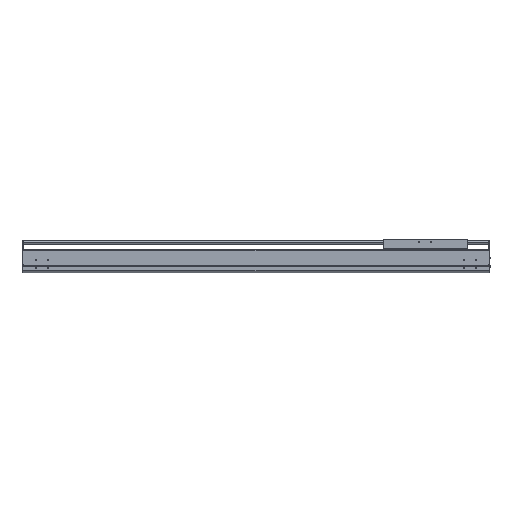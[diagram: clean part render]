
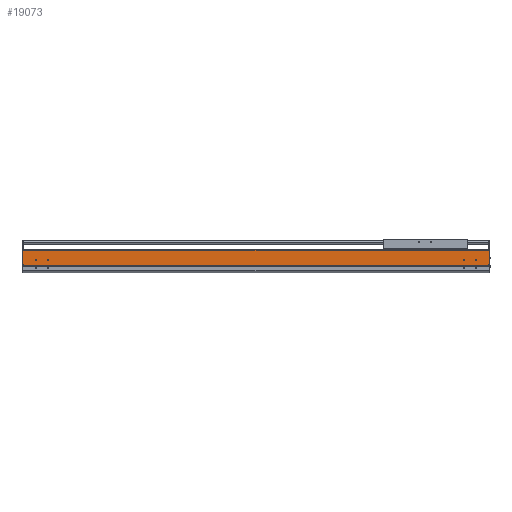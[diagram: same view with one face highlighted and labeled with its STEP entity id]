
A CAD part, top view. The second image highlights one B-rep face of the part: STEP entity #19073.
In plain terms, the highlighted planar face has unit normal (0, 0, 1).
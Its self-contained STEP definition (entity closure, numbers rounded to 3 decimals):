
#1618=DIRECTION('',(0.,-1.,0.));
#1619=VECTOR('',#1618,2.55);
#1620=CARTESIAN_POINT('',(0.,34.65,107.));
#1621=LINE('',#1620,#1619);
#2101=DIRECTION('',(1.,0.,0.));
#2102=VECTOR('',#2101,2.);
#2103=CARTESIAN_POINT('',(-1941.,34.65,107.));
#2104=LINE('',#2103,#2102);
#2105=CARTESIAN_POINT('',(-54.5,54.,107.));
#2106=DIRECTION('',(0.,0.,-1.));
#2107=DIRECTION('',(1.,0.,0.));
#2108=AXIS2_PLACEMENT_3D('',#2105,#2106,#2107);
#2110=CARTESIAN_POINT('',(-54.5,54.,107.));
#2111=DIRECTION('',(0.,0.,-1.));
#2112=DIRECTION('',(-1.,0.,0.));
#2113=AXIS2_PLACEMENT_3D('',#2110,#2111,#2112);
#2115=CARTESIAN_POINT('',(-104.5,54.,107.));
#2116=DIRECTION('',(0.,0.,-1.));
#2117=DIRECTION('',(1.,0.,0.));
#2118=AXIS2_PLACEMENT_3D('',#2115,#2116,#2117);
#2120=CARTESIAN_POINT('',(-104.5,54.,107.));
#2121=DIRECTION('',(0.,0.,-1.));
#2122=DIRECTION('',(-1.,0.,0.));
#2123=AXIS2_PLACEMENT_3D('',#2120,#2121,#2122);
#2125=CARTESIAN_POINT('',(-1884.5,54.,107.));
#2126=DIRECTION('',(0.,0.,-1.));
#2127=DIRECTION('',(1.,0.,0.));
#2128=AXIS2_PLACEMENT_3D('',#2125,#2126,#2127);
#2130=CARTESIAN_POINT('',(-1884.5,54.,107.));
#2131=DIRECTION('',(0.,0.,-1.));
#2132=DIRECTION('',(-1.,0.,0.));
#2133=AXIS2_PLACEMENT_3D('',#2130,#2131,#2132);
#2135=CARTESIAN_POINT('',(-1834.5,54.,107.));
#2136=DIRECTION('',(0.,0.,-1.));
#2137=DIRECTION('',(1.,0.,0.));
#2138=AXIS2_PLACEMENT_3D('',#2135,#2136,#2137);
#2140=CARTESIAN_POINT('',(-1834.5,54.,107.));
#2141=DIRECTION('',(0.,0.,-1.));
#2142=DIRECTION('',(-1.,0.,0.));
#2143=AXIS2_PLACEMENT_3D('',#2140,#2141,#2142);
#2145=DIRECTION('',(0.,-1.,0.));
#2146=VECTOR('',#2145,2.55);
#2147=CARTESIAN_POINT('',(-1939.,34.65,107.));
#2148=LINE('',#2147,#2146);
#2149=DIRECTION('',(0.,-1.,0.));
#2150=VECTOR('',#2149,58.85);
#2151=CARTESIAN_POINT('',(-1941.,93.5,107.));
#2152=LINE('',#2151,#2150);
#2153=DIRECTION('',(0.,1.,0.));
#2154=VECTOR('',#2153,58.85);
#2155=CARTESIAN_POINT('',(2.,34.65,107.));
#2156=LINE('',#2155,#2154);
#2157=DIRECTION('',(1.,0.,0.));
#2158=VECTOR('',#2157,1939.);
#2159=CARTESIAN_POINT('',(-1939.,32.1,107.));
#2160=LINE('',#2159,#2158);
#2265=DIRECTION('',(-1.,0.,0.));
#2266=VECTOR('',#2265,1943.);
#2267=CARTESIAN_POINT('',(2.,93.5,107.));
#2268=LINE('',#2267,#2266);
#11889=DIRECTION('',(1.,0.,0.));
#11890=VECTOR('',#11889,2.);
#11891=CARTESIAN_POINT('',(0.,34.65,107.));
#11892=LINE('',#11891,#11890);
#13139=CARTESIAN_POINT('',(-1941.,34.65,107.));
#13140=VERTEX_POINT('',#13139);
#13141=CARTESIAN_POINT('',(-1941.,93.5,107.));
#13142=VERTEX_POINT('',#13141);
#13371=CARTESIAN_POINT('',(-1939.,32.1,107.));
#13372=VERTEX_POINT('',#13371);
#13995=CARTESIAN_POINT('',(0.,32.1,107.));
#13996=VERTEX_POINT('',#13995);
#13997=CARTESIAN_POINT('',(-52.,54.,107.));
#13998=CARTESIAN_POINT('',(-57.,54.,107.));
#13999=VERTEX_POINT('',#13997);
#14000=VERTEX_POINT('',#13998);
#14001=CARTESIAN_POINT('',(-102.,54.,107.));
#14002=CARTESIAN_POINT('',(-107.,54.,107.));
#14003=VERTEX_POINT('',#14001);
#14004=VERTEX_POINT('',#14002);
#14005=CARTESIAN_POINT('',(-1882.,54.,107.));
#14006=CARTESIAN_POINT('',(-1887.,54.,107.));
#14007=VERTEX_POINT('',#14005);
#14008=VERTEX_POINT('',#14006);
#14009=CARTESIAN_POINT('',(-1832.,54.,107.));
#14010=CARTESIAN_POINT('',(-1837.,54.,107.));
#14011=VERTEX_POINT('',#14009);
#14012=VERTEX_POINT('',#14010);
#15263=CARTESIAN_POINT('',(2.,34.65,107.));
#15264=VERTEX_POINT('',#15263);
#15265=CARTESIAN_POINT('',(2.,93.5,107.));
#15266=VERTEX_POINT('',#15265);
#15609=CARTESIAN_POINT('',(0.,34.65,107.));
#15610=VERTEX_POINT('',#15609);
#15797=CARTESIAN_POINT('',(-1939.,34.65,107.));
#15798=VERTEX_POINT('',#15797);
#19031=CARTESIAN_POINT('',(-969.5,62.8,107.));
#19032=DIRECTION('',(0.,0.,1.));
#19033=DIRECTION('',(0.,-1.,0.));
#19034=AXIS2_PLACEMENT_3D('',#19031,#19032,#19033);
#19035=PLANE('',#19034);
#19036=ORIENTED_EDGE('',*,*,#17283,.F.);
#19037=ORIENTED_EDGE('',*,*,#19026,.F.);
#19038=ORIENTED_EDGE('',*,*,#17912,.F.);
#19040=ORIENTED_EDGE('',*,*,#19039,.F.);
#19041=ORIENTED_EDGE('',*,*,#17022,.F.);
#19043=ORIENTED_EDGE('',*,*,#19042,.F.);
#19044=ORIENTED_EDGE('',*,*,#18633,.T.);
#19046=ORIENTED_EDGE('',*,*,#19045,.F.);
#19047=EDGE_LOOP('',(#19036,#19037,#19038,#19040,#19041,#19043,#19044,#19046));
#19048=FACE_OUTER_BOUND('',#19047,.F.);
#19050=ORIENTED_EDGE('',*,*,#19049,.F.);
#19052=ORIENTED_EDGE('',*,*,#19051,.F.);
#19053=EDGE_LOOP('',(#19050,#19052));
#19054=FACE_BOUND('',#19053,.F.);
#19056=ORIENTED_EDGE('',*,*,#19055,.F.);
#19058=ORIENTED_EDGE('',*,*,#19057,.F.);
#19059=EDGE_LOOP('',(#19056,#19058));
#19060=FACE_BOUND('',#19059,.F.);
#19062=ORIENTED_EDGE('',*,*,#19061,.F.);
#19064=ORIENTED_EDGE('',*,*,#19063,.F.);
#19065=EDGE_LOOP('',(#19062,#19064));
#19066=FACE_BOUND('',#19065,.F.);
#19068=ORIENTED_EDGE('',*,*,#19067,.F.);
#19070=ORIENTED_EDGE('',*,*,#19069,.F.);
#19071=EDGE_LOOP('',(#19068,#19070));
#19072=FACE_BOUND('',#19071,.F.);
#19073=ADVANCED_FACE('',(#19048,#19054,#19060,#19066,#19072),#19035,.T.);
#2109=CIRCLE('',#2108,2.5);
#2114=CIRCLE('',#2113,2.5);
#2119=CIRCLE('',#2118,2.5);
#2124=CIRCLE('',#2123,2.5);
#2129=CIRCLE('',#2128,2.5);
#2134=CIRCLE('',#2133,2.5);
#2139=CIRCLE('',#2138,2.5);
#2144=CIRCLE('',#2143,2.5);
#17022=EDGE_CURVE('',#15264,#15266,#2156,.T.);
#17283=EDGE_CURVE('',#15798,#13372,#2148,.T.);
#17912=EDGE_CURVE('',#13142,#13140,#2152,.T.);
#18633=EDGE_CURVE('',#15610,#13996,#1621,.T.);
#19026=EDGE_CURVE('',#13140,#15798,#2104,.T.);
#19039=EDGE_CURVE('',#15266,#13142,#2268,.T.);
#19042=EDGE_CURVE('',#15610,#15264,#11892,.T.);
#19045=EDGE_CURVE('',#13372,#13996,#2160,.T.);
#19049=EDGE_CURVE('',#14003,#14004,#2119,.T.);
#19051=EDGE_CURVE('',#14004,#14003,#2124,.T.);
#19055=EDGE_CURVE('',#14007,#14008,#2129,.T.);
#19057=EDGE_CURVE('',#14008,#14007,#2134,.T.);
#19061=EDGE_CURVE('',#14011,#14012,#2139,.T.);
#19063=EDGE_CURVE('',#14012,#14011,#2144,.T.);
#19067=EDGE_CURVE('',#13999,#14000,#2109,.T.);
#19069=EDGE_CURVE('',#14000,#13999,#2114,.T.);
